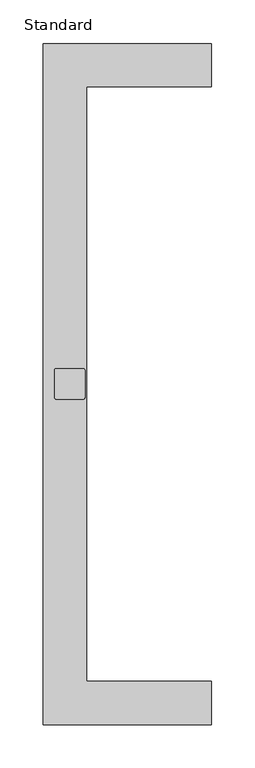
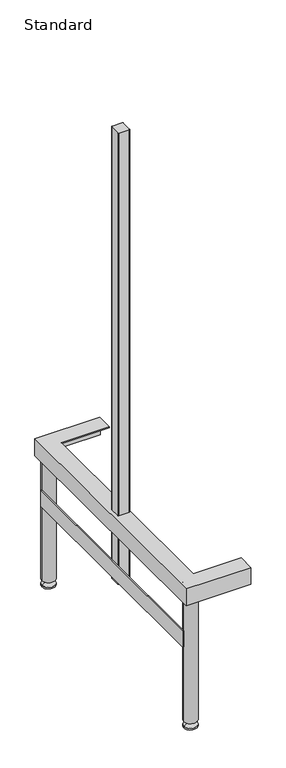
"""IFC4 building model written with IfcOpenShell, lengths in millimetres: furniture geometry, X_Bench-Foot-Duracube-Assembly : Standard."""

from ifc_helpers import new_model, si_unit, point, frame, frame_2d, origin, place, context, project, spatial, polyline, circle_curve, trimmed, segment, composite_curve, outline, extrude, source, transform, mapped, element, save
from ifc_brep_helpers import plane_surface, cylinder_surface, revolved_surface, advanced_brep


def standard_a7376189(model_context):
    return source(origin(), model_context, "Body", "SolidModel", [
        advanced_brep(
        [(208.2003264, -785.0, 404.0), (208.2003264, -782.0, 404.0), (208.2003264, -782.0, 454.0), (208.2003264, -735.0, 454.0), (208.2003264, -735.0, 457.0), (208.2003264, -785.0, 457.0), (14.2003264, -785.0, 404.0), (14.2003264, 0.0, 404.0), (208.2003264, 0.0, 404.0), (208.2003264, -3.0, 404.0), (17.2003264, -3.0, 404.0), (17.2003264, -782.0, 404.0), (17.2003264, -782.0, 454.0), (17.2003264, -3.0, 454.0), (208.2003264, -3.0, 454.0), (208.2003264, -50.0, 454.0), (64.2003264, -50.0, 454.0), (64.2003264, -735.0, 454.0), (60.2003264, -375.0, 454.0), (29.2003264, -375.0, 454.0), (27.2003264, -377.0, 454.0), (27.2003264, -408.0, 454.0), (29.2003264, -410.0, 454.0), (60.2003264, -410.0, 454.0), (62.2003264, -408.0, 454.0), (62.2003264, -377.0, 454.0), (64.2003264, -735.0, 457.0), (64.2003264, -50.0, 457.0), (208.2003264, -50.0, 457.0), (208.2003264, 0.0, 457.0), (14.2003264, 0.0, 457.0), (14.2003264, -785.0, 457.0), (29.2003264, -375.0, 457.0), (60.2003264, -375.0, 457.0), (62.2003264, -377.0, 457.0), (62.2003264, -408.0, 457.0), (60.2003264, -410.0, 457.0), (29.2003264, -410.0, 457.0), (27.2003264, -408.0, 457.0), (27.2003264, -377.0, 457.0), (60.2003264, -375.0, 239.0), (29.2003264, -375.0, 239.0), (29.2003264, -375.0, 1670.0), (60.2003264, -375.0, 1670.0), (27.2003264, -377.0, 239.0), (27.2003264, -377.0, 1670.0), (27.2003264, -408.0, 239.0), (27.2003264, -408.0, 1670.0), (29.2003264, -410.0, 239.0), (29.2003264, -410.0, 1670.0), (60.2003264, -410.0, 239.0), (60.2003264, -410.0, 1670.0), (62.2003264, -408.0, 239.0), (62.2003264, -408.0, 1670.0), (62.2003264, -377.0, 239.0), (62.2003264, -377.0, 1670.0)],
        [
            (0, 1),
            (1, 2),
            (2, 3),
            (3, 4),
            (4, 5),
            (5, 0),
            (0, 6),
            (6, 7),
            (7, 8),
            (8, 9),
            (9, 10),
            (10, 11),
            (11, 1),
            (11, 12),
            (12, 2),
            (12, 13),
            (13, 14),
            (14, 15),
            (15, 16),
            (16, 17),
            (17, 3),
            (18, 19),
            (19, 20, circle_curve(frame((29.2003264, -377.0, 454.0), z_axis=(0.0, 0.0, 1.0), x_axis=(1.0, 0.0, 0.0)), 2.0)),
            (20, 21),
            (21, 22, circle_curve(frame((29.2003264, -408.0, 454.0), z_axis=(0.0, 0.0, 1.0), x_axis=(1.0, 0.0, 0.0)), 2.0)),
            (22, 23),
            (23, 24, circle_curve(frame((60.2003264, -408.0, 454.0), z_axis=(0.0, 0.0, 1.0), x_axis=(1.0, 0.0, 0.0)), 2.0)),
            (24, 25),
            (25, 18, circle_curve(frame((60.2003264, -377.0, 454.0), z_axis=(0.0, 0.0, 1.0), x_axis=(1.0, 0.0, 0.0)), 2.0)),
            (17, 26),
            (26, 4),
            (26, 27),
            (27, 28),
            (28, 29),
            (29, 30),
            (30, 31),
            (31, 5),
            (32, 33),
            (33, 34, circle_curve(frame((60.2003264, -377.0, 457.0), z_axis=(0.0, 0.0, -1.0), x_axis=(1.0, 0.0, 0.0)), 2.0)),
            (34, 35),
            (35, 36, circle_curve(frame((60.2003264, -408.0, 457.0), z_axis=(0.0, 0.0, -1.0), x_axis=(1.0, 0.0, 0.0)), 2.0)),
            (36, 37),
            (37, 38, circle_curve(frame((29.2003264, -408.0, 457.0), z_axis=(0.0, 0.0, -1.0), x_axis=(1.0, 0.0, 0.0)), 2.0)),
            (38, 39),
            (39, 32, circle_curve(frame((29.2003264, -377.0, 457.0), z_axis=(0.0, 0.0, -1.0), x_axis=(1.0, 0.0, 0.0)), 2.0)),
            (31, 6),
            (30, 7),
            (29, 8),
            (28, 15),
            (14, 9),
            (13, 10),
            (27, 16),
            (40, 41),
            (41, 19),
            (18, 40),
            (42, 43),
            (43, 33),
            (32, 42),
            (41, 44, circle_curve(frame((29.2003264, -377.0, 239.0), z_axis=(0.0, 0.0, 1.0), x_axis=(1.0, 0.0, 0.0)), 2.0)),
            (44, 20),
            (45, 42, circle_curve(frame((29.2003264, -377.0, 1670.0), z_axis=(0.0, 0.0, -1.0), x_axis=(1.0, 0.0, 0.0)), 2.0)),
            (39, 45),
            (44, 46),
            (46, 21),
            (47, 45),
            (38, 47),
            (46, 48, circle_curve(frame((29.2003264, -408.0, 239.0), z_axis=(0.0, 0.0, 1.0), x_axis=(1.0, 0.0, 0.0)), 2.0)),
            (48, 22),
            (49, 47, circle_curve(frame((29.2003264, -408.0, 1670.0), z_axis=(0.0, 0.0, -1.0), x_axis=(1.0, 0.0, 0.0)), 2.0)),
            (37, 49),
            (48, 50),
            (50, 23),
            (51, 49),
            (36, 51),
            (50, 52, circle_curve(frame((60.2003264, -408.0, 239.0), z_axis=(0.0, 0.0, 1.0), x_axis=(1.0, 0.0, 0.0)), 2.0)),
            (52, 24),
            (53, 51, circle_curve(frame((60.2003264, -408.0, 1670.0), z_axis=(0.0, 0.0, -1.0), x_axis=(1.0, 0.0, 0.0)), 2.0)),
            (35, 53),
            (52, 54),
            (54, 25),
            (55, 53),
            (34, 55),
            (54, 40, circle_curve(frame((60.2003264, -377.0, 239.0), z_axis=(0.0, 0.0, 1.0), x_axis=(1.0, 0.0, 0.0)), 2.0)),
            (43, 55, circle_curve(frame((60.2003264, -377.0, 1670.0), z_axis=(0.0, 0.0, -1.0), x_axis=(1.0, 0.0, 0.0)), 2.0)),
        ],
        [
            plane_surface(frame((208.2003264, -785.0, 0.0), z_axis=(1.0, 0.0, 0.0), x_axis=(0.0, 0.0, 1.0))),
            plane_surface(frame((208.2003264, -785.0, 404.0), z_axis=(0.0, 0.0, -1.0), x_axis=(-1.0, 0.0, 0.0))),
            plane_surface(frame((208.2003264, -782.0, 404.0), z_axis=(0.0, 1.0, 0.0), x_axis=(-1.0, 0.0, 0.0))),
            plane_surface(frame((208.2003264, -782.0, 454.0), z_axis=(0.0, 0.0, -1.0), x_axis=(-1.0, 0.0, 0.0))),
            plane_surface(frame((208.2003264, -735.0, 454.0), z_axis=(0.0, 1.0, 0.0), x_axis=(-1.0, 0.0, 0.0))),
            plane_surface(frame((208.2003264, -735.0, 457.0), z_axis=(0.0, 0.0, 1.0), x_axis=(-1.0, 0.0, 0.0))),
            plane_surface(frame((208.2003264, -785.0, 457.0), z_axis=(0.0, -1.0, 0.0), x_axis=(-1.0, 0.0, 0.0))),
            plane_surface(frame((14.2003264, -785.0, 457.0), z_axis=(-1.0, 0.0, 0.0), x_axis=(0.0, 1.0, 0.0))),
            plane_surface(frame((14.2003264, 0.0, 457.0), z_axis=(0.0, 1.0, 0.0), x_axis=(1.0, 0.0, 0.0))),
            plane_surface(frame((208.2003264, 0.0, 0.0), z_axis=(1.0, 0.0, 0.0), x_axis=(0.0, 0.0, 1.0))),
            plane_surface(frame((17.2003264, -3.0, 404.0), z_axis=(0.0, -1.0, 0.0), x_axis=(1.0, 0.0, 0.0))),
            plane_surface(frame((17.2003264, -782.0, 404.0), z_axis=(1.0, 0.0, 0.0), x_axis=(0.0, 1.0, 0.0))),
            plane_surface(frame((64.2003264, -50.0, 454.0), z_axis=(0.0, -1.0, 0.0), x_axis=(1.0, 0.0, 0.0))),
            plane_surface(frame((64.2003264, -735.0, 454.0), z_axis=(1.0, 0.0, 0.0), x_axis=(0.0, 1.0, 0.0))),
            plane_surface(frame((60.2003264, -375.0, 1670.0), z_axis=(0.0, 1.0, 0.0), x_axis=(0.0, 0.0, -1.0))),
            cylinder_surface(frame((29.2003264, -377.0, 239.0), z_axis=(0.0, 0.0, 1.0), x_axis=(1.0, 0.0, 0.0)), 2.0),
            plane_surface(frame((27.2003264, -377.0, 1670.0), z_axis=(-1.0, 0.0, 0.0), x_axis=(0.0, 0.0, -1.0))),
            cylinder_surface(frame((29.2003264, -408.0, 239.0), z_axis=(0.0, 0.0, 1.0), x_axis=(1.0, 0.0, 0.0)), 2.0),
            plane_surface(frame((29.2003264, -410.0, 1670.0), z_axis=(0.0, -1.0, 0.0), x_axis=(0.0, 0.0, -1.0))),
            cylinder_surface(frame((60.2003264, -408.0, 239.0), z_axis=(0.0, 0.0, 1.0), x_axis=(1.0, 0.0, 0.0)), 2.0),
            plane_surface(frame((62.2003264, -408.0, 1670.0), z_axis=(1.0, 0.0, 0.0), x_axis=(0.0, 0.0, -1.0))),
            cylinder_surface(frame((60.2003264, -377.0, 239.0), z_axis=(0.0, 0.0, 1.0), x_axis=(1.0, 0.0, 0.0)), 2.0),
            plane_surface(frame((27.2003264, -375.0, 239.0), z_axis=(0.0, 0.0, -1.0), x_axis=(1.0, 0.0, 0.0))),
            plane_surface(frame((27.2003264, -375.0, 1670.0), z_axis=(0.0, 0.0, 1.0), x_axis=(-1.0, 0.0, 0.0))),
        ],
        [
            (0, [[1, 2, 3, 4, 5, 6]]),
            (1, [[-1, 7, 8, 9, 10, 11, 12, 13]]),
            (2, [[-2, -13, 14, 15]]),
            (3, [[-3, -15, 16, 17, 18, 19, 20, 21], [22, 23, 24, 25, 26, 27, 28, 29]]),
            (4, [[-4, -21, 30, 31]]),
            (5, [[-5, -31, 32, 33, 34, 35, 36, 37], [38, 39, 40, 41, 42, 43, 44, 45]]),
            (6, [[-6, -37, 46, -7]]),
            (7, [[-8, -46, -36, 47]]),
            (8, [[-9, -47, -35, 48]]),
            (9, [[-10, -48, -34, 49, -18, 50]]),
            (10, [[-11, -50, -17, 51]]),
            (11, [[-12, -51, -16, -14]]),
            (12, [[-19, -49, -33, 52]]),
            (13, [[-20, -52, -32, -30]]),
            (14, [[53, 54, -22, 55]]),
            (14, [[56, 57, -38, 58]]),
            (15, [[59, 60, -23, -54]]),
            (15, [[61, -58, -45, 62]]),
            (16, [[63, 64, -24, -60]]),
            (16, [[65, -62, -44, 66]]),
            (17, [[67, 68, -25, -64]]),
            (17, [[69, -66, -43, 70]]),
            (18, [[71, 72, -26, -68]]),
            (18, [[73, -70, -42, 74]]),
            (19, [[75, 76, -27, -72]]),
            (19, [[77, -74, -41, 78]]),
            (20, [[79, 80, -28, -76]]),
            (20, [[81, -78, -40, 82]]),
            (21, [[83, -55, -29, -80]]),
            (21, [[84, -82, -39, -57]]),
            (22, [[-83, -79, -75, -71, -67, -63, -59, -53]]),
            (23, [[-56, -61, -65, -69, -73, -77, -81, -84]]),
        ],
    ),
        advanced_brep(
        [(44.9503264, -23.75, 20.0), (36.9503264, -23.75, 20.0), (40.9503264, -23.75, 20.0), (44.9503264, -23.75, 15.0), (36.9503264, -23.75, 15.0), (60.9503264, -23.75, 5.0), (20.9503264, -23.75, 5.0), (60.9503264, -23.75, 0.0), (20.9503264, -23.75, 0.0), (40.9503264, -23.75, 0.0)],
        [
            (0, 1, circle_curve(frame((40.9503264, -23.75, 20.0), z_axis=(0.0, 0.0, 1.0), x_axis=(-1.0, 0.0, 0.0)), 4.0)),
            (1, 2),
            (2, 0),
            (1, 0, circle_curve(frame((40.9503264, -23.75, 20.0), z_axis=(0.0, 0.0, 1.0), x_axis=(-1.0, 0.0, 0.0)), 4.0)),
            (3, 4, circle_curve(frame((40.9503264, -23.75, 15.0), z_axis=(0.0, 0.0, 1.0), x_axis=(-1.0, 0.0, 0.0)), 4.0)),
            (4, 1),
            (0, 3),
            (4, 3, circle_curve(frame((40.9503264, -23.75, 15.0), z_axis=(0.0, 0.0, 1.0), x_axis=(-1.0, 0.0, 0.0)), 4.0)),
            (5, 6, circle_curve(frame((40.9503264, -23.75, 5.0), z_axis=(0.0, 0.0, 1.0), x_axis=(-1.0, 0.0, 0.0)), 20.0)),
            (6, 4),
            (3, 5),
            (6, 5, circle_curve(frame((40.9503264, -23.75, 5.0), z_axis=(0.0, 0.0, 1.0), x_axis=(-1.0, 0.0, 0.0)), 20.0)),
            (7, 8, circle_curve(frame((40.9503264, -23.75, 0.0), z_axis=(0.0, 0.0, 1.0), x_axis=(-1.0, 0.0, 0.0)), 20.0)),
            (8, 6),
            (5, 7),
            (8, 7, circle_curve(frame((40.9503264, -23.75, 0.0), z_axis=(0.0, 0.0, 1.0), x_axis=(-1.0, 0.0, 0.0)), 20.0)),
            (9, 8),
            (7, 9),
        ],
        [
            plane_surface(frame((40.9503264, -23.75, 20.0), z_axis=(0.0, 0.0, 1.0), x_axis=(-1.0, 0.0, 0.0))),
            cylinder_surface(frame((40.9503264, -23.75, 0.0), z_axis=(0.0, 0.0, -1.0), x_axis=(-1.0, 0.0, 0.0)), 4.0),
            revolved_surface(polyline([(36.9503264, -23.75, 15.0), (20.9503264, -23.75, 5.0)]), (40.9503264, -23.75, 0.0), (0.0, 0.0, -1.0)),
            cylinder_surface(frame((40.9503264, -23.75, 0.0), z_axis=(0.0, 0.0, -1.0), x_axis=(-1.0, 0.0, 0.0)), 20.0),
            plane_surface(frame((40.9503264, -23.75, 0.0), z_axis=(0.0, 0.0, -1.0), x_axis=(-1.0, 0.0, 0.0))),
        ],
        [
            (0, [[1, 2, 3]]),
            (0, [[4, -3, -2]]),
            (1, [[5, 6, -1, 7]]),
            (1, [[8, -7, -4, -6]]),
            (2, [[9, 10, -5, 11]]),
            (2, [[12, -11, -8, -10]]),
            (3, [[13, 14, -9, 15]]),
            (3, [[16, -15, -12, -14]]),
            (4, [[17, -13, 18]]),
            (4, [[-18, -16, -17]]),
        ],
    ),
        advanced_brep(
        [(44.9503264, -761.25, 20.0), (36.9503264, -761.25, 20.0), (40.9503264, -761.25, 20.0), (44.9503264, -761.25, 15.0), (36.9503264, -761.25, 15.0), (60.9503264, -761.25, 5.0), (20.9503264, -761.25, 5.0), (60.9503264, -761.25, 0.0), (20.9503264, -761.25, 0.0), (40.9503264, -761.25, 0.0)],
        [
            (0, 1, circle_curve(frame((40.9503264, -761.25, 20.0), z_axis=(0.0, 0.0, 1.0), x_axis=(-1.0, 0.0, 0.0)), 4.0)),
            (1, 2),
            (2, 0),
            (1, 0, circle_curve(frame((40.9503264, -761.25, 20.0), z_axis=(0.0, 0.0, 1.0), x_axis=(-1.0, 0.0, 0.0)), 4.0)),
            (3, 4, circle_curve(frame((40.9503264, -761.25, 15.0), z_axis=(0.0, 0.0, 1.0), x_axis=(-1.0, 0.0, 0.0)), 4.0)),
            (4, 1),
            (0, 3),
            (4, 3, circle_curve(frame((40.9503264, -761.25, 15.0), z_axis=(0.0, 0.0, 1.0), x_axis=(-1.0, 0.0, 0.0)), 4.0)),
            (5, 6, circle_curve(frame((40.9503264, -761.25, 5.0), z_axis=(0.0, 0.0, 1.0), x_axis=(-1.0, 0.0, 0.0)), 20.0)),
            (6, 4),
            (3, 5),
            (6, 5, circle_curve(frame((40.9503264, -761.25, 5.0), z_axis=(0.0, 0.0, 1.0), x_axis=(-1.0, 0.0, 0.0)), 20.0)),
            (7, 8, circle_curve(frame((40.9503264, -761.25, 0.0), z_axis=(0.0, 0.0, 1.0), x_axis=(-1.0, 0.0, 0.0)), 20.0)),
            (8, 6),
            (5, 7),
            (8, 7, circle_curve(frame((40.9503264, -761.25, 0.0), z_axis=(0.0, 0.0, 1.0), x_axis=(-1.0, 0.0, 0.0)), 20.0)),
            (9, 8),
            (7, 9),
        ],
        [
            plane_surface(frame((40.9503264, -761.25, 20.0), z_axis=(0.0, 0.0, 1.0), x_axis=(-1.0, 0.0, 0.0))),
            cylinder_surface(frame((40.9503264, -761.25, 0.0), z_axis=(0.0, 0.0, -1.0), x_axis=(-1.0, 0.0, 0.0)), 4.0),
            revolved_surface(polyline([(36.9503264, -761.25, 15.0), (20.9503264, -761.25, 5.0)]), (40.9503264, -761.25, 0.0), (0.0, 0.0, -1.0)),
            cylinder_surface(frame((40.9503264, -761.25, 0.0), z_axis=(0.0, 0.0, -1.0), x_axis=(-1.0, 0.0, 0.0)), 20.0),
            plane_surface(frame((40.9503264, -761.25, 0.0), z_axis=(0.0, 0.0, -1.0), x_axis=(-1.0, 0.0, 0.0))),
        ],
        [
            (0, [[1, 2, 3]]),
            (0, [[4, -3, -2]]),
            (1, [[5, 6, -1, 7]]),
            (1, [[8, -7, -4, -6]]),
            (2, [[9, 10, -5, 11]]),
            (2, [[12, -11, -8, -10]]),
            (3, [[13, 14, -9, 15]]),
            (3, [[16, -15, -12, -14]]),
            (4, [[17, -13, 18]]),
            (4, [[-18, -16, -17]]),
        ],
    ),
        extrude(outline(polyline([(20.9503264, -23.75), (20.9503264, -761.25), (17.9503264, -761.25), (17.9503264, -23.75), (20.9503264, -23.75)])), frame((0.0, 0.0, 257.0), z_axis=(0.0, 0.0, 1.0), x_axis=(1.0, 0.0, 0.0)), (0.0, 0.0, 1.0), 50.0),
        extrude(outline(composite_curve([segment(trimmed(circle_curve(frame_2d((40.9503264, -23.75)), 20.0), [point((20.9503264, -23.75))], [point((60.9503264, -23.75))], False, "CARTESIAN"), True, "CONTINUOUS"), segment(trimmed(circle_curve(frame_2d((40.9503264, -23.75)), 20.0), [point((60.9503264, -23.75))], [point((20.9503264, -23.75))], False, "CARTESIAN"), True, "CONTINUOUS")], self_intersect=False)), frame((0.0, 0.0, 20.0), z_axis=(0.0, 0.0, 1.0), x_axis=(1.0, 0.0, 0.0)), (0.0, 0.0, 1.0), 434.0),
        extrude(outline(composite_curve([segment(trimmed(circle_curve(frame_2d((40.9503264, -761.25)), 20.0), [point((20.9503264, -761.25))], [point((60.9503264, -761.25))], False, "CARTESIAN"), True, "CONTINUOUS"), segment(trimmed(circle_curve(frame_2d((40.9503264, -761.25)), 20.0), [point((60.9503264, -761.25))], [point((20.9503264, -761.25))], False, "CARTESIAN"), True, "CONTINUOUS")], self_intersect=False)), frame((0.0, 0.0, 20.0), z_axis=(0.0, 0.0, 1.0), x_axis=(1.0, 0.0, 0.0)), (0.0, 0.0, 1.0), 434.0),
    ])


if __name__ == "__main__":
    model = new_model("IFC4")
    model_context = context("Model", 3, world=origin())
    ifc_project = project(units=[si_unit("LENGTHUNIT", "METRE", prefix="MILLI")], contexts=[model_context])
    site = spatial("IfcSite", under=ifc_project)
    building = spatial("IfcBuilding", under=site)
    placement = place(None, origin())
    standard_shape = standard_a7376189(model_context)
    element("IfcFurniture", 1, ObjectType="X_Bench-Foot-Duracube-Assembly : Standard", at=placement, inside=building, context=model_context, shape_type="MappedRepresentation", body=[
        mapped(standard_shape, transform((0.0, 0.0, 0.0), x_axis=(1.0, 0.0, 0.0), y_axis=(0.0, 1.0, 0.0), z_axis=(0.0, 0.0, 1.0))),
    ])
    save(model, "model.ifc")
